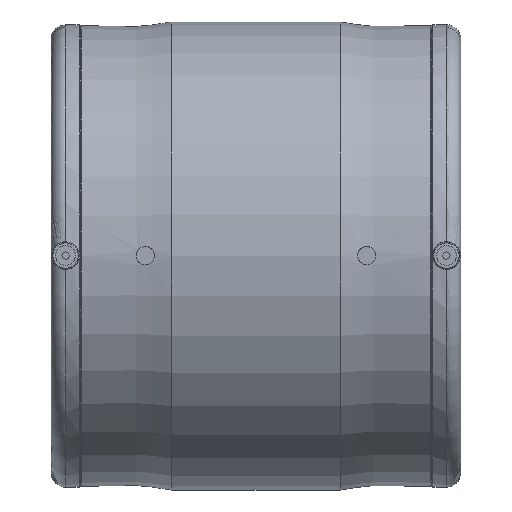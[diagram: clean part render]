
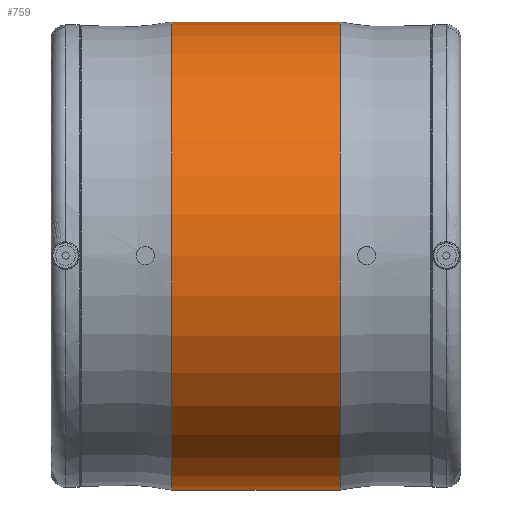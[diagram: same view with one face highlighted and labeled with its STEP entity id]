
A CAD part, top view. The second image highlights one B-rep face of the part: STEP entity #759.
In plain terms, the highlighted cylindrical face has radius 129 mm (diameter 258 mm), a full revolution.
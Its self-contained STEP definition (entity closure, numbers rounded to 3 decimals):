
#51=CYLINDRICAL_SURFACE('',#853,129.);
#237=ORIENTED_EDGE('',*,*,#381,.T.);
#238=ORIENTED_EDGE('',*,*,#382,.T.);
#381=EDGE_CURVE('',#459,#459,#512,.F.);
#382=EDGE_CURVE('',#460,#460,#513,.T.);
#459=VERTEX_POINT('',#1357);
#460=VERTEX_POINT('',#1359);
#512=CIRCLE('',#854,129.);
#513=CIRCLE('',#855,129.);
#570=EDGE_LOOP('',(#237));
#571=EDGE_LOOP('',(#238));
#658=FACE_BOUND('',#570,.T.);
#659=FACE_BOUND('',#571,.T.);
#759=ADVANCED_FACE('',(#658,#659),#51,.T.);
#853=AXIS2_PLACEMENT_3D('',#1355,#1034,#1035);
#854=AXIS2_PLACEMENT_3D('',#1356,#1036,#1037);
#855=AXIS2_PLACEMENT_3D('',#1358,#1038,#1039);
#1034=DIRECTION('',(-1.,0.,0.));
#1035=DIRECTION('',(0.,0.,1.));
#1036=DIRECTION('',(1.,0.,0.));
#1037=DIRECTION('',(0.,0.,-1.));
#1038=DIRECTION('',(1.,0.,0.));
#1039=DIRECTION('',(0.,0.,-1.));
#1355=CARTESIAN_POINT('',(-60.,0.,0.));
#1356=CARTESIAN_POINT('',(46.41,0.,0.));
#1357=CARTESIAN_POINT('',(46.41,0.,-129.));
#1358=CARTESIAN_POINT('',(-46.41,0.,0.));
#1359=CARTESIAN_POINT('',(-46.41,0.,-129.));
